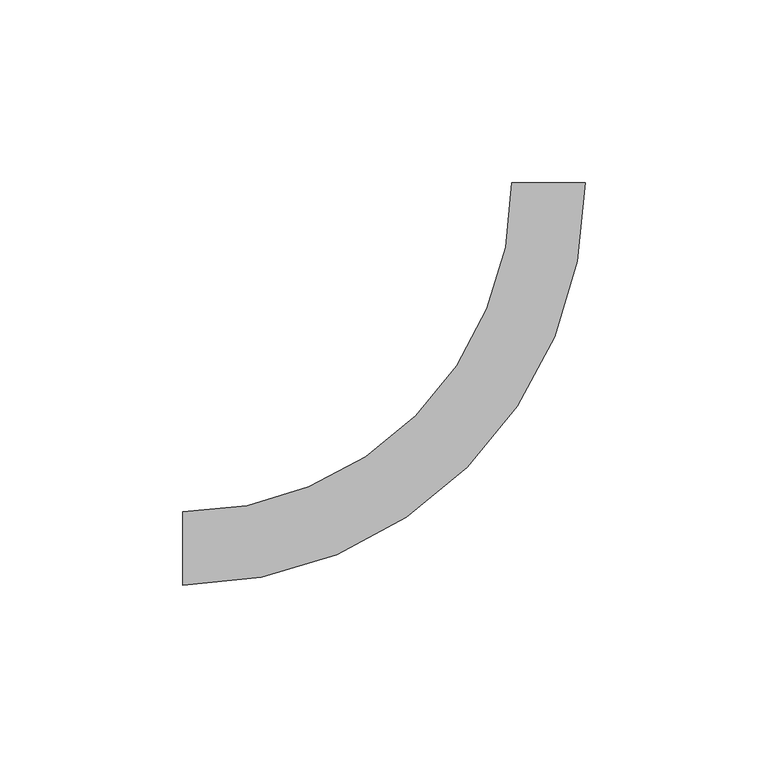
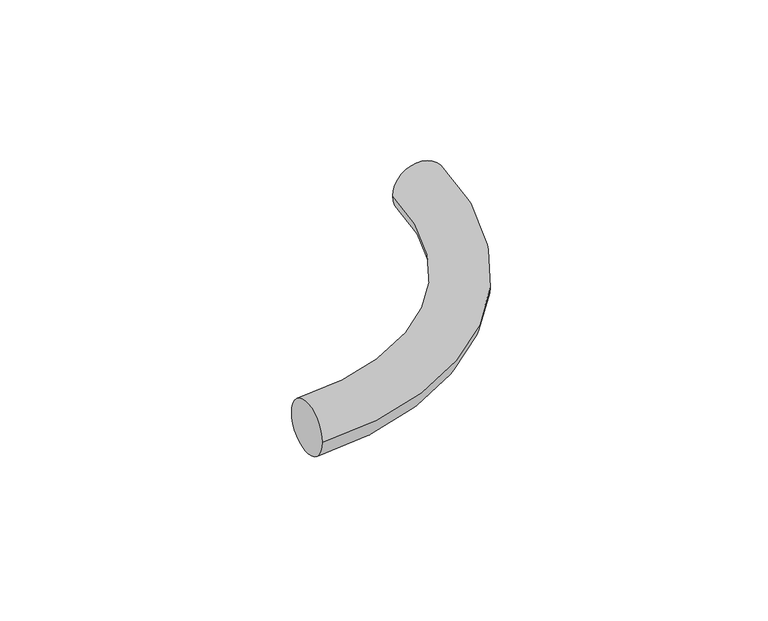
"""IFC4 building model written with IfcOpenShell, lengths in millimetres: pipe fitting geometry, БИР ПЕКС_Изгиб трубопровода_5D : Изгиб."""

from ifc_helpers import new_model, si_unit, point, frame, origin, place, context, project, spatial, circle_curve, ellipse_curve, trimmed, source, transform, mapped, element, save
from ifc_brep_helpers import plane_surface, revolved_surface, advanced_brep


def pipe_fitting_9c1fe3d9(model_context):
    return source(origin(), model_context, "Body", "AdvancedBrep", [
        advanced_brep(
        [(-100.0, -10.0, 0.0), (-100.0, 10.0, 0.0), (10.0, 100.0, 0.0), (-10.0, 100.0, 0.0)],
        [
            (0, 1, circle_curve(frame((-100.0, 0.0, 0.0), z_axis=(-1.0, 0.0, 0.0), x_axis=(0.0, 1.0, 0.0)), 10.0)),
            (1, 0, circle_curve(frame((-100.0, 0.0, 0.0), z_axis=(-1.0, 0.0, 0.0), x_axis=(0.0, 1.0, 0.0)), 10.0)),
            (2, 3, circle_curve(frame((0.0, 100.0, 0.0), z_axis=(0.0, 1.0, 0.0), x_axis=(-1.0, 0.0, 0.0)), 10.0)),
            (3, 2, circle_curve(frame((0.0, 100.0, 0.0), z_axis=(0.0, 1.0, 0.0), x_axis=(-1.0, 0.0, 0.0)), 10.0)),
            (3, 1, circle_curve(frame((-100.0, 100.0, 0.0), z_axis=(0.0, 0.0, -1.0), x_axis=(0.0, -1.0, 0.0)), 90.0)),
            (0, 2, circle_curve(frame((-100.0, 100.0, 0.0), z_axis=(0.0, 0.0, 1.0), x_axis=(0.0, -1.0, 0.0)), 110.0)),
        ],
        [
            plane_surface(frame((-100.0, 0.0, 0.0), z_axis=(-1.0, 0.0, 0.0), x_axis=(0.0, 0.0, 1.0))),
            plane_surface(frame((0.0, 100.0, 0.0), z_axis=(0.0, 1.0, 0.0), x_axis=(0.0, 0.0, 1.0))),
            revolved_surface(trimmed(ellipse_curve(frame((-100.0, 0.0, 0.0), z_axis=(-1.0, 0.0, 0.0), x_axis=(0.0, 1.0, 0.0)), 10.0, 10.0), [point((-100.0, -10.0, 0.0))], [point((-100.0, 10.0, 0.0))], True, "CARTESIAN"), (-100.0, 100.0, 0.0), (0.0, 0.0, 1.0)),
            revolved_surface(trimmed(ellipse_curve(frame((-100.0, 0.0, 0.0), z_axis=(-1.0, 0.0, 0.0), x_axis=(0.0, 1.0, 0.0)), 10.0, 10.0), [point((-100.0, 10.0, 0.0))], [point((-100.0, -10.0, 0.0))], True, "CARTESIAN"), (-100.0, 100.0, 0.0), (0.0, 0.0, 1.0)),
        ],
        [
            (0, [[1, 2]]),
            (1, [[3, 4]]),
            (2, [[5, -1, 6, -4]]),
            (3, [[-6, -2, -5, -3]]),
        ],
    ),
    ])


if __name__ == "__main__":
    model = new_model("IFC4")
    model_context = context("Model", 3, world=origin())
    ifc_project = project(units=[si_unit("LENGTHUNIT", "METRE", prefix="MILLI")], contexts=[model_context])
    site = spatial("IfcSite", under=ifc_project)
    building = spatial("IfcBuilding", under=site)
    placement = place(None, origin())
    pipe_fitting_shape = pipe_fitting_9c1fe3d9(model_context)
    element("IfcPipeFitting", 1, ObjectType="БИР ПЕКС_Изгиб трубопровода_5D : Изгиб", at=placement, inside=building, context=model_context, shape_type="MappedRepresentation", body=[
        mapped(pipe_fitting_shape, transform((0.0, 0.0, 0.0), x_axis=(1.0, 0.0, 0.0), y_axis=(0.0, 1.0, 0.0), z_axis=(0.0, 0.0, 1.0))),
    ])
    save(model, "model.ifc")
